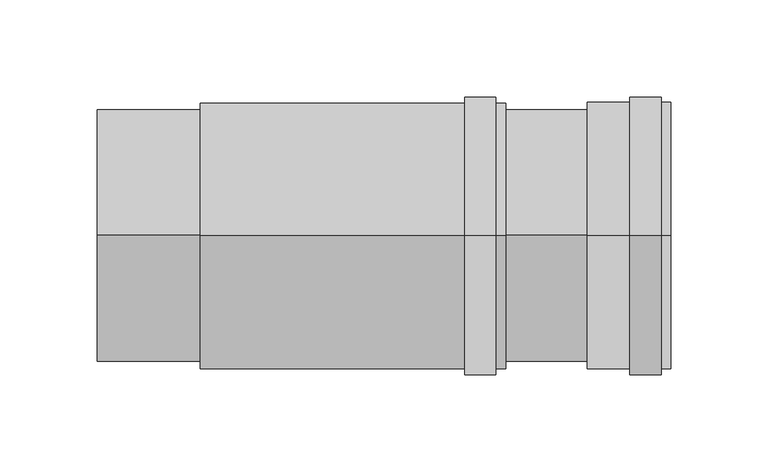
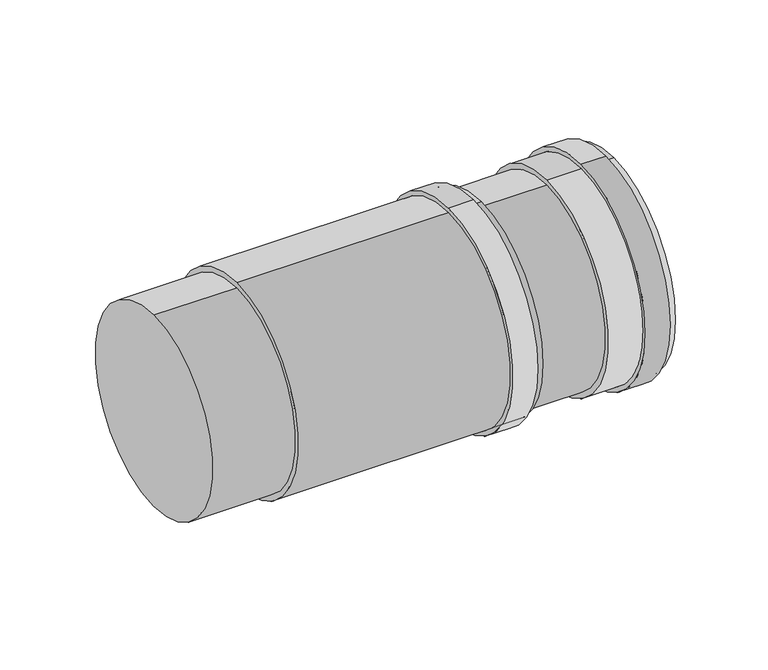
"""IFC4 building model written with IfcOpenShell, lengths in millimetres: duct fitting geometry, RSFen_DUF_UN_Twinline Adjuster_M&G : ø130-150."""

from ifc_helpers import new_model, si_unit, point, frame, origin, origin_2d, place, context, project, spatial, polyline, circle_curve, trimmed, segment, composite_curve, outline, extrude, source, transform, mapped, element, save
from ifc_brep_helpers import plane_surface, cylinder_surface, revolved_surface, advanced_brep


def duct_fitting_de41c6b8(model_context):
    return source(origin(), model_context, "Body", "SolidModel", [
        extrude(outline(composite_curve([segment(trimmed(circle_curve(origin_2d(), 71.5), [point((0.0, -71.5))], [point((0.0, 71.5))], False, "CARTESIAN"), True, "CONTINUOUS"), segment(trimmed(circle_curve(origin_2d(), 71.5), [point((0.0, 71.5))], [point((0.0, -71.5))], False, "CARTESIAN"), True, "CONTINUOUS")], self_intersect=False), holes=[composite_curve([segment(trimmed(circle_curve(origin_2d(), 68.5), [point((0.0, 68.5))], [point((0.0, -68.5))], True, "CARTESIAN"), True, "CONTINUOUS"), segment(trimmed(circle_curve(origin_2d(), 68.5), [point((0.0, -68.5))], [point((0.0, 68.5))], True, "CARTESIAN"), True, "CONTINUOUS")], self_intersect=False)]), frame((189.0, 0.0, 0.0), z_axis=(1.0, 0.0, 0.0), x_axis=(0.0, 1.0, 0.0)), (0.0, 0.0, 1.0), 16.0),
        advanced_brep(
        [(252.0, 0.0, -65.0), (252.0, 0.0, 65.0), (0.0, 0.0, -65.0), (0.0, 0.0, 65.0), (210.0, 0.0, 65.0), (210.0, 0.0, -65.0), (53.0, 0.0, -65.0), (53.0, 0.0, 65.0), (210.0, 0.0, -68.5), (210.0, 0.0, 68.5), (53.0, 0.0, -68.5), (53.0, 0.0, 68.5)],
        [
            (0, 1, circle_curve(frame((252.0, 0.0, 0.0), z_axis=(1.0, 0.0, 0.0), x_axis=(0.0, 0.0, 1.0)), 65.0)),
            (1, 0, circle_curve(frame((252.0, 0.0, 0.0), z_axis=(1.0, 0.0, 0.0), x_axis=(0.0, 0.0, 1.0)), 65.0)),
            (2, 3, circle_curve(frame((0.0, 0.0, 0.0), z_axis=(-1.0, 0.0, 0.0), x_axis=(0.0, 0.0, 1.0)), 65.0)),
            (3, 2, circle_curve(frame((0.0, 0.0, 0.0), z_axis=(-1.0, 0.0, 0.0), x_axis=(0.0, 0.0, 1.0)), 65.0)),
            (1, 4),
            (4, 5, circle_curve(frame((210.0, 0.0, 0.0), z_axis=(1.0, 0.0, 0.0), x_axis=(0.0, 0.0, 1.0)), 65.0)),
            (5, 0),
            (2, 6),
            (6, 7, circle_curve(frame((53.0, 0.0, 0.0), z_axis=(-1.0, 0.0, 0.0), x_axis=(0.0, 0.0, 1.0)), 65.0)),
            (7, 3),
            (5, 4, circle_curve(frame((210.0, 0.0, 0.0), z_axis=(1.0, 0.0, 0.0), x_axis=(0.0, 0.0, 1.0)), 65.0)),
            (7, 6, circle_curve(frame((53.0, 0.0, 0.0), z_axis=(-1.0, 0.0, 0.0), x_axis=(0.0, 0.0, 1.0)), 65.0)),
            (8, 9, circle_curve(frame((210.0, 0.0, 0.0), z_axis=(1.0, 0.0, 0.0), x_axis=(0.0, 0.0, 1.0)), 68.5)),
            (9, 8, circle_curve(frame((210.0, 0.0, 0.0), z_axis=(1.0, 0.0, 0.0), x_axis=(0.0, 0.0, 1.0)), 68.5)),
            (10, 11, circle_curve(frame((53.0, 0.0, 0.0), z_axis=(-1.0, 0.0, 0.0), x_axis=(0.0, 0.0, 1.0)), 68.5)),
            (11, 10, circle_curve(frame((53.0, 0.0, 0.0), z_axis=(-1.0, 0.0, 0.0), x_axis=(0.0, 0.0, 1.0)), 68.5)),
            (8, 10),
            (11, 9),
        ],
        [
            plane_surface(frame((252.0, 0.0, 65.0), z_axis=(1.0, 0.0, 0.0), x_axis=(0.0, -1.0, 0.0))),
            plane_surface(frame((0.0, 0.0, 65.0), z_axis=(-1.0, 0.0, 0.0), x_axis=(0.0, 1.0, 0.0))),
            cylinder_surface(frame((252.0, 0.0, 0.0), z_axis=(-1.0, 0.0, 0.0), x_axis=(0.0, 0.0, 1.0)), 65.0),
            plane_surface(frame((210.0, 0.0, 68.5), z_axis=(1.0, 0.0, 0.0), x_axis=(0.0, -1.0, 0.0))),
            plane_surface(frame((53.0, 0.0, 68.5), z_axis=(-1.0, 0.0, 0.0), x_axis=(0.0, 1.0, 0.0))),
            cylinder_surface(frame((210.0, 0.0, 0.0), z_axis=(-1.0, 0.0, 0.0), x_axis=(0.0, 0.0, 1.0)), 68.5),
        ],
        [
            (0, [[1, 2]]),
            (1, [[3, 4]]),
            (2, [[-2, 5, 6, 7]]),
            (2, [[-3, 8, 9, 10]]),
            (2, [[-1, -7, 11, -5]]),
            (2, [[-4, -10, 12, -8]]),
            (3, [[13, 14], [-6, -11]]),
            (4, [[15, 16], [-9, -12]]),
            (5, [[-13, 17, -16, 18]]),
            (5, [[-14, -18, -15, -17]]),
        ],
    ),
        advanced_brep(
        [(252.0, 0.0, -68.5), (252.0, 0.0, 68.5), (295.0, 0.0, 68.5), (295.0, 0.0, -68.5), (255.0, 0.0, 66.0), (255.0, 0.0, -66.0), (295.0, 0.0, -66.0), (295.0, 0.0, 66.0)],
        [
            (0, 1, circle_curve(frame((252.0, 0.0, 0.0), z_axis=(-1.0, 0.0, 0.0), x_axis=(0.0, 0.0, 1.0)), 68.5)),
            (1, 0, circle_curve(frame((252.0, 0.0, 0.0), z_axis=(-1.0, 0.0, 0.0), x_axis=(0.0, 0.0, 1.0)), 68.5)),
            (2, 3, circle_curve(frame((295.0, 0.0, 0.0), z_axis=(-1.0, 0.0, 0.0), x_axis=(0.0, 0.0, 1.0)), 68.5)),
            (3, 0),
            (1, 2),
            (3, 2, circle_curve(frame((295.0, 0.0, 0.0), z_axis=(-1.0, 0.0, 0.0), x_axis=(0.0, 0.0, 1.0)), 68.5)),
            (4, 5, circle_curve(frame((255.0, 0.0, 0.0), z_axis=(-1.0, 0.0, 0.0), x_axis=(0.0, 0.0, -1.0)), 66.0)),
            (5, 6),
            (6, 7, circle_curve(frame((295.0, 0.0, 0.0), z_axis=(1.0, 0.0, 0.0), x_axis=(0.0, 0.0, -1.0)), 66.0)),
            (7, 4),
            (5, 4, circle_curve(frame((255.0, 0.0, 0.0), z_axis=(-1.0, 0.0, 0.0), x_axis=(0.0, 0.0, -1.0)), 66.0)),
            (7, 6, circle_curve(frame((295.0, 0.0, 0.0), z_axis=(1.0, 0.0, 0.0), x_axis=(0.0, 0.0, -1.0)), 66.0)),
        ],
        [
            plane_surface(frame((252.0, 0.0, 68.5), z_axis=(-1.0, 0.0, 0.0), x_axis=(0.0, 1.0, 0.0))),
            cylinder_surface(frame((252.0, 0.0, 0.0), z_axis=(1.0, 0.0, 0.0), x_axis=(0.0, 0.0, 1.0)), 68.5),
            revolved_surface(polyline([(255.0, 0.0, -66.0), (295.0, 0.0, -66.0)]), (295.0, 0.0, 0.0), (-1.0, 0.0, 0.0)),
            plane_surface(frame((295.0, 0.0, 68.5), z_axis=(1.0, 0.0, 0.0), x_axis=(0.0, -1.0, 0.0))),
            plane_surface(frame((255.0, 0.0, -66.0), z_axis=(1.0, 0.0, 0.0), x_axis=(0.0, -1.0, 0.0))),
        ],
        [
            (0, [[1, 2]]),
            (1, [[3, 4, -2, 5]]),
            (1, [[6, -5, -1, -4]]),
            (2, [[7, 8, 9, 10]]),
            (2, [[11, -10, 12, -8]]),
            (3, [[-3, -6], [-9, -12]]),
            (4, [[-11, -7]]),
        ],
    ),
        extrude(outline(composite_curve([segment(trimmed(circle_curve(origin_2d(), 71.5), [point((0.0, -71.5))], [point((0.0, 71.5))], False, "CARTESIAN"), True, "CONTINUOUS"), segment(trimmed(circle_curve(origin_2d(), 71.5), [point((0.0, 71.5))], [point((0.0, -71.5))], False, "CARTESIAN"), True, "CONTINUOUS")], self_intersect=False), holes=[composite_curve([segment(trimmed(circle_curve(origin_2d(), 68.5), [point((0.0, 68.5))], [point((0.0, -68.5))], True, "CARTESIAN"), True, "CONTINUOUS"), segment(trimmed(circle_curve(origin_2d(), 68.5), [point((0.0, -68.5))], [point((0.0, 68.5))], True, "CARTESIAN"), True, "CONTINUOUS")], self_intersect=False)]), frame((274.0, 0.0, 0.0), z_axis=(1.0, 0.0, 0.0), x_axis=(0.0, 1.0, 0.0)), (0.0, 0.0, 1.0), 16.0),
    ])


if __name__ == "__main__":
    model = new_model("IFC4")
    model_context = context("Model", 3, world=origin())
    ifc_project = project(units=[si_unit("LENGTHUNIT", "METRE", prefix="MILLI")], contexts=[model_context])
    site = spatial("IfcSite", under=ifc_project)
    building = spatial("IfcBuilding", under=site)
    placement = place(None, origin())
    duct_fitting_shape = duct_fitting_de41c6b8(model_context)
    element("IfcDuctFitting", 1, ObjectType="RSFen_DUF_UN_Twinline Adjuster_M&G : ø130-150", at=placement, inside=building, context=model_context, shape_type="MappedRepresentation", body=[
        mapped(duct_fitting_shape, transform((0.0, 0.0, 0.0), x_axis=(1.0, 0.0, 0.0), y_axis=(0.0, 1.0, 0.0), z_axis=(0.0, 0.0, 1.0))),
    ])
    save(model, "model.ifc")
